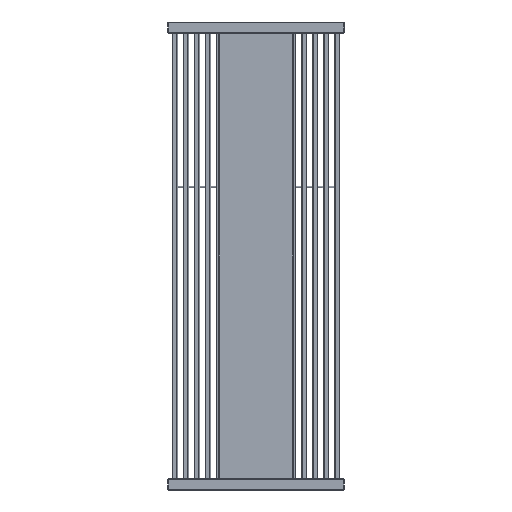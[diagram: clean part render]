
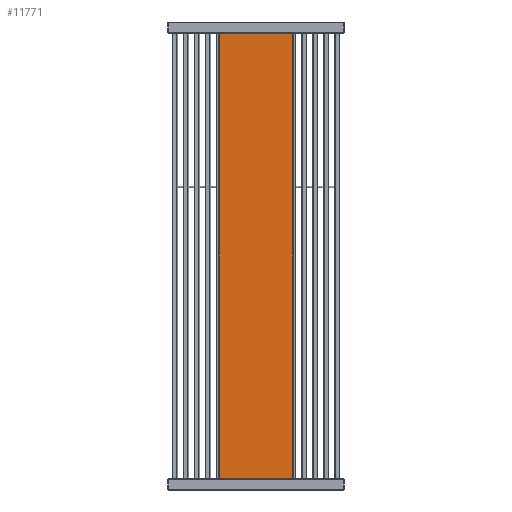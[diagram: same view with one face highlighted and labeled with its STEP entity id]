
A CAD part, front view. The second image highlights one B-rep face of the part: STEP entity #11771.
In plain terms, the highlighted planar face has unit normal (0, -1, 0).
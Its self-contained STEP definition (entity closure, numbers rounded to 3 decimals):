
#11586=CARTESIAN_POINT('',(-134.,-17.,42.5));
#11587=VERTEX_POINT('',#11586);
#11588=CARTESIAN_POINT('',(-134.,-17.,1657.5));
#11589=VERTEX_POINT('',#11588);
#11590=CARTESIAN_POINT('',(-134.,-17.,42.5));
#11591=DIRECTION('',(0.0,0.0,1.0));
#11592=VECTOR('',#11591,1615.0);
#11593=LINE('',#11590,#11592);
#11594=EDGE_CURVE('',#11587,#11589,#11593,.T.);
#11626=CARTESIAN_POINT('',(134.,-17.,1657.5));
#11627=VERTEX_POINT('',#11626);
#11628=CARTESIAN_POINT('',(-134.,-17.,1657.5));
#11629=DIRECTION('',(1.0,0.0,0.0));
#11630=VECTOR('',#11629,268.);
#11631=LINE('',#11628,#11630);
#11632=EDGE_CURVE('',#11589,#11627,#11631,.T.);
#11657=CARTESIAN_POINT('',(134.,-17.,42.5));
#11658=VERTEX_POINT('',#11657);
#11659=CARTESIAN_POINT('',(134.,-17.,1657.5));
#11660=DIRECTION('',(0.0,0.0,-1.0));
#11661=VECTOR('',#11660,1615.0);
#11662=LINE('',#11659,#11661);
#11663=EDGE_CURVE('',#11627,#11658,#11662,.T.);
#11688=CARTESIAN_POINT('',(134.,-17.,42.5));
#11689=DIRECTION('',(-1.0,0.0,0.0));
#11690=VECTOR('',#11689,268.);
#11691=LINE('',#11688,#11690);
#11692=EDGE_CURVE('',#11658,#11587,#11691,.T.);
#11760=CARTESIAN_POINT('',(0.,-17.,850.));
#11761=DIRECTION('',(0.0,-1.0,0.0));
#11762=DIRECTION('',(-1.0,0.0,0.0));
#11763=AXIS2_PLACEMENT_3D('',#11760,#11761,#11762);
#11764=PLANE('',#11763);
#11765=ORIENTED_EDGE('',*,*,#11594,.F.);
#11766=ORIENTED_EDGE('',*,*,#11692,.F.);
#11767=ORIENTED_EDGE('',*,*,#11663,.F.);
#11768=ORIENTED_EDGE('',*,*,#11632,.F.);
#11769=EDGE_LOOP('',(#11765,#11766,#11767,#11768));
#11770=FACE_OUTER_BOUND('',#11769,.T.);
#11771=ADVANCED_FACE('',(#11770),#11764,.T.);
